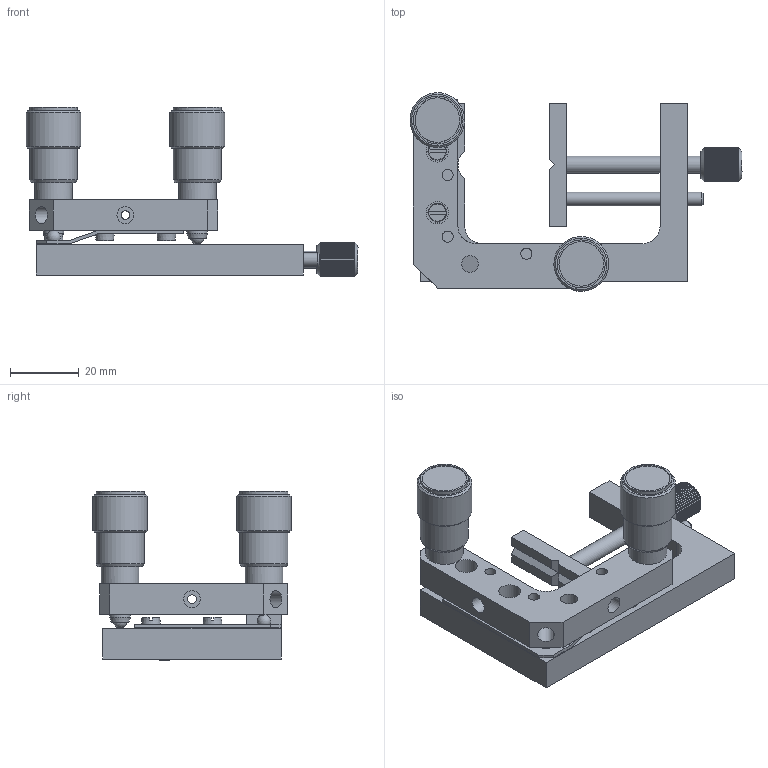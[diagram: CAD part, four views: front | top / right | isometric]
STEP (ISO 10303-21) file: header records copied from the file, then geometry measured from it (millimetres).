
FILE_DESCRIPTION((''),'2;1');
FILE_NAME('D:\Darius\Schemos\05\5OM37-50\step\5OM37-50.stp','2011-06-16T13:40:40',('Darius'),(''),'Autodesk Inventor 2011','Autodesk Inventor 2011','');
FILE_SCHEMA(('CONFIG_CONTROL_DESIGN'));
Length unit declared in the file: millimetre
Products named in the file (1): Part12
Bounding box: 96.94 x 58 x 49.49 mm (x, y, z)
Volume: 37608.7 mm3; surface area: 18773.2 mm2
Topology: 1 solids, 3 shells, 688 faces, 1717 edges, 1078 vertices
Faces by surface type: plane 503, bspline 116, cylinder 40, cone 15, torus 8, sphere 6
Full cylindrical faces by diameter (mm): 1.4 x4, 2.5 x3, 3 x2, 3.242 x3, 4 x2, 4.917 x4, 5 x2, 6 x2, 6.5 x4, 11 x2, 13 x2, 14 x4, 16 x2
Entity records: 20672 total; most frequent: CARTESIAN_POINT 5335, ORIENTED_EDGE 3248, DIRECTION 2840, EDGE_CURVE 1624, VERTEX_POINT 1041, VECTOR 1016, LINE 1016, AXIS2_PLACEMENT_3D 912
